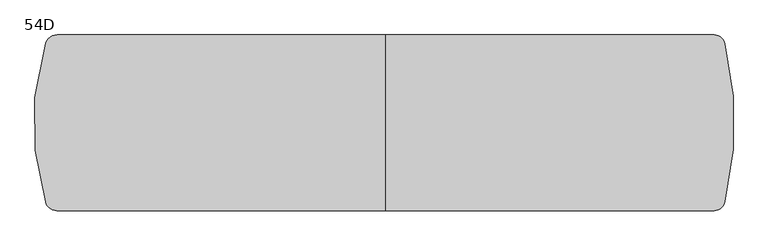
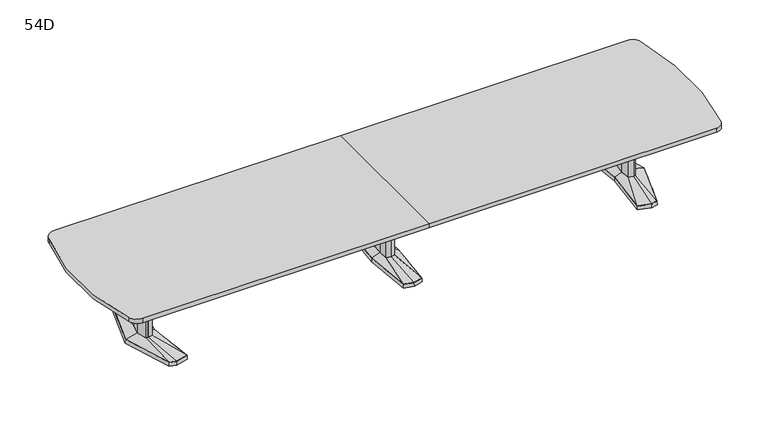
"""IFC4 building model written with IfcOpenShell, lengths in millimetres: furniture geometry, Coalesse_AM_Table_Conference_ETable2_SoftRadiused_18ft_AluminiumBase : 54D."""

from ifc_helpers import new_model, si_unit, point, frame, frame_2d, origin, place, context, project, spatial, polyline, circle_curve, trimmed, segment, composite_curve, outline, extrude, faceted_brep, source, transform, mapped, element, save
from ifc_brep_helpers import plane_surface, spline_surface, advanced_brep


def furniture_54d_258da948(model_context):
    return source(origin(), model_context, "Body", "SolidModel", [
        faceted_brep([(-81.2333791, -433.8053819, 38.1), (0.0, -455.556576, 38.1), (81.2333791, -433.8053819, 38.1), (119.0564774, 0.0, 38.1), (81.2333791, 433.8053819, 38.1), (0.0, 455.556576, 38.1), (-81.2333791, 433.8053819, 38.1), (-119.0564774, 0.0, 38.1), (-82.7182795, -435.0512063, 3.175), (-120.65, 0.0, 3.175), (-82.7182795, 435.0512063, 3.175), (0.0, 457.2, 3.175), (82.7182795, 435.0512063, 3.175), (120.65, 0.0, 3.175), (82.7182795, -435.0512063, 3.175), (0.0, -457.2, 3.175), (0.0, 429.2617927, 3.175), (-77.9676806, 408.3850278, 3.175), (-74.7019821, 382.9646737, 3.175), (0.0, 402.9670094, 3.175), (74.7019821, 382.9646737, 3.175), (77.9676806, 408.3850278, 3.175), (0.0, -429.2617927, 3.175), (77.9676806, -408.3850278, 3.175), (74.7019821, -382.9646737, 3.175), (0.0, -402.9670094, 3.175), (-74.7019821, -382.9646737, 3.175), (-77.9676806, -408.3850278, 3.175), (-71.8574262, 114.6326257, 3.175), (-82.5426076, 0.0, 3.175), (-71.8574262, -114.6326257, 3.175), (0.0, -133.8761372, 3.175), (71.8574262, -114.6326257, 3.175), (82.5426076, 0.0, 3.175), (71.8574262, 114.6326257, 3.175), (0.0, 133.8761372, 3.175), (0.0, 429.2617927, 0.0), (77.9676806, 408.3850278, 0.0), (74.7019821, 382.9646737, 0.0), (0.0, 402.9670094, 0.0), (-74.7019821, 382.9646737, 0.0), (-77.9676806, 408.3850278, 0.0), (0.0, -429.2617927, 0.0), (-77.9676806, -408.3850278, 0.0), (-74.7019821, -382.9646737, 0.0), (0.0, -402.9670094, 0.0), (74.7019821, -382.9646737, 0.0), (77.9676806, -408.3850278, 0.0), (-71.8574262, 114.6326257, 0.0), (0.0, 133.8761372, 0.0), (71.8574262, 114.6326257, 0.0), (82.5426076, 0.0, 0.0), (71.8574262, -114.6326257, 0.0), (0.0, -133.8761372, 0.0), (-71.8574262, -114.6326257, 0.0), (-82.5426076, 0.0, 0.0)], [[[0, 1, 2, 3, 4, 5, 6, 7]], [[8, 9, 10, 11, 12, 13, 14, 15], [16, 17, 18, 19, 20, 21], [22, 23, 24, 25, 26, 27], [28, 29, 30, 31, 32, 33, 34, 35]], [[1, 0, 8, 15]], [[2, 1, 15, 14]], [[3, 2, 14, 13]], [[4, 3, 13, 12]], [[5, 4, 12, 11]], [[6, 5, 11, 10]], [[7, 6, 10, 9]], [[0, 7, 9, 8]], [[36, 37, 38, 39, 40, 41]], [[42, 43, 44, 45, 46, 47]], [[48, 49, 50, 51, 52, 53, 54, 55]], [[36, 41, 17, 16]], [[41, 40, 18, 17]], [[40, 39, 19, 18]], [[39, 38, 20, 19]], [[38, 37, 21, 20]], [[37, 36, 16, 21]], [[42, 47, 23, 22]], [[47, 46, 24, 23]], [[46, 45, 25, 24]], [[45, 44, 26, 25]], [[44, 43, 27, 26]], [[43, 42, 22, 27]], [[48, 55, 29, 28]], [[55, 54, 30, 29]], [[54, 53, 31, 30]], [[53, 52, 32, 31]], [[52, 51, 33, 32]], [[51, 50, 34, 33]], [[50, 49, 35, 34]], [[49, 48, 28, 35]]]),
        faceted_brep([(-36.3832834, 84.6900825, 698.5), (-44.2774487, 0.0, 698.5), (-36.3832834, -84.6900825, 698.5), (0.0, -94.4335728, 698.5), (36.3832834, -84.6900825, 698.5), (44.2774487, 0.0, 698.5), (36.3832834, 84.6900825, 698.5), (0.0, 94.4335728, 698.5), (-36.3832834, 84.6900825, 63.5), (0.0, 94.4335728, 63.5), (36.3832834, 84.6900825, 63.5), (44.2774487, 0.0, 63.5), (36.3832834, -84.6900825, 63.5), (0.0, -94.4335728, 63.5), (-36.3832834, -84.6900825, 63.5), (-44.2774487, 0.0, 63.5)], [[[0, 1, 2, 3, 4, 5, 6, 7]], [[8, 9, 10, 11, 12, 13, 14, 15]], [[1, 0, 8, 15]], [[2, 1, 15, 14]], [[3, 2, 14, 13]], [[4, 3, 13, 12]], [[5, 4, 12, 11]], [[6, 5, 11, 10]], [[7, 6, 10, 9]], [[0, 7, 9, 8]]]),
        advanced_brep(
        [(-36.3832834, 84.6900825, 63.5), (-44.2774487, 0.0, 63.5), (-36.3832834, -84.6900825, 63.5), (0.0, -94.4335728, 63.5), (36.3832834, -84.6900825, 63.5), (44.2774487, 0.0, 63.5), (36.3832834, 84.6900825, 63.5), (0.0, 94.4335728, 63.5), (-81.2333791, 433.8053819, 38.1), (0.0, 455.556576, 38.1), (81.2333791, 433.8053819, 38.1), (119.0564774, 0.0, 38.1), (81.2333791, -433.8053819, 38.1), (0.0, -455.556576, 38.1), (-81.2333791, -433.8053819, 38.1), (-119.0564774, 0.0, 38.1)],
        [
            (0, 1),
            (1, 2),
            (2, 3),
            (3, 4),
            (4, 5),
            (5, 6),
            (6, 7),
            (7, 0),
            (8, 9),
            (9, 10),
            (10, 11),
            (11, 12),
            (12, 13),
            (13, 14),
            (14, 15),
            (15, 8),
            (15, 1),
            (0, 8),
            (14, 2),
            (13, 3),
            (12, 4),
            (11, 5),
            (10, 6),
            (9, 7),
        ],
        [
            plane_surface(frame((0.0, 0.0, 63.5), z_axis=(0.0, 0.0, 1.0000000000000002), x_axis=(-0.9659615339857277, -0.25868574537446, 0.0))),
            plane_surface(frame((0.0, 0.0, 38.1), z_axis=(0.0, 0.0, -1.0000000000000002), x_axis=(-0.9659615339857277, -0.25868574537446, 0.0))),
            spline_surface(1, 1, [[(-81.2333791, 433.8053819, 38.1), (-36.3832834, 84.6900825, 63.5)], [(-119.0564774, 0.0, 38.1), (-44.2774487, 0.0, 63.5)]], [2, 2], [2, 2], [0.0, 1.0], [0.0, 1.0]),
            spline_surface(1, 1, [[(-119.0564774, 0.0, 38.1), (-44.2774487, 0.0, 63.5)], [(-81.2333791, -433.8053819, 38.1), (-36.3832834, -84.6900825, 63.5)]], [2, 2], [2, 2], [0.0, 1.0], [0.0, 1.0]),
            spline_surface(1, 1, [[(-81.2333791, -433.8053819, 38.1), (-36.3832834, -84.6900825, 63.5)], [(0.0, -455.556576, 38.1), (0.0, -94.4335728, 63.5)]], [2, 2], [2, 2], [0.0, 1.0], [0.0, 1.0]),
            spline_surface(1, 1, [[(0.0, -455.556576, 38.1), (0.0, -94.4335728, 63.5)], [(81.2333791, -433.8053819, 38.1), (36.3832834, -84.6900825, 63.5)]], [2, 2], [2, 2], [0.0, 1.0], [0.0, 1.0]),
            spline_surface(1, 1, [[(81.2333791, -433.8053819, 38.1), (36.3832834, -84.6900825, 63.5)], [(119.0564774, 0.0, 38.1), (44.2774487, 0.0, 63.5)]], [2, 2], [2, 2], [0.0, 1.0], [0.0, 1.0]),
            spline_surface(1, 1, [[(119.0564774, 0.0, 38.1), (44.2774487, 0.0, 63.5)], [(81.2333791, 433.8053819, 38.1), (36.3832834, 84.6900825, 63.5)]], [2, 2], [2, 2], [0.0, 1.0], [0.0, 1.0]),
            spline_surface(1, 1, [[(81.2333791, 433.8053819, 38.1), (36.3832834, 84.6900825, 63.5)], [(0.0, 455.556576, 38.1), (0.0, 94.4335728, 63.5)]], [2, 2], [2, 2], [0.0, 1.0], [0.0, 1.0]),
            spline_surface(1, 1, [[(0.0, 455.556576, 38.1), (0.0, 94.4335728, 63.5)], [(-81.2333791, 433.8053819, 38.1), (-36.3832834, 84.6900825, 63.5)]], [2, 2], [2, 2], [0.0, 1.0], [0.0, 1.0]),
        ],
        [
            (0, [[1, 2, 3, 4, 5, 6, 7, 8]]),
            (1, [[9, 10, 11, 12, 13, 14, 15, 16]]),
            (2, [[-16, 17, -1, 18]]),
            (3, [[-15, 19, -2, -17]]),
            (4, [[-14, 20, -3, -19]]),
            (5, [[-13, 21, -4, -20]]),
            (6, [[-12, 22, -5, -21]]),
            (7, [[-11, 23, -6, -22]]),
            (8, [[-10, 24, -7, -23]]),
            (9, [[-9, -18, -8, -24]]),
        ],
    ),
        faceted_brep([(2125.0306835, 455.5848221, 38.1), (2015.4531277, 426.2263816, 38.1), (2056.6163717, 0.0, 38.1), (2015.4531277, -426.2263816, 38.1), (2125.0306835, -455.5848221, 38.1), (2181.1570396, -440.5478297, 38.1), (2318.4684269, 0.0, 38.1), (2181.1570396, 440.5478297, 38.1), (2125.0306754, 457.2283104, 3.175), (2182.4124472, 441.8549756, 3.175), (2320.13125, 0.0, 3.175), (2182.4124472, -441.8549756, 3.175), (2125.0306754, -457.2283104, 3.175), (2013.74375, -427.4118891, 3.175), (2055.0214856, 0.0, 3.175), (2013.74375, 427.4118891, 3.175), (2128.620115, 428.3273875, 3.175), (2023.5718228, 402.1057253, 3.175), (2031.690518, 377.985069, 3.175), (2132.2095466, 401.0699529, 3.175), (2182.7691725, 387.524361, 3.175), (2181.9631061, 414.0360954, 3.175), (2128.620115, -428.3273875, 3.175), (2181.9631061, -414.0360954, 3.175), (2182.7691725, -387.524361, 3.175), (2132.2095466, -401.0699529, 3.175), (2031.690518, -377.985069, 3.175), (2023.5718228, -402.1057253, 3.175), (2255.2153621, 0.0, 3.175), (2222.9459611, 120.4193755, 3.175), (2174.2987222, 133.471665, 3.175), (2094.4180526, 119.4176561, 3.175), (2083.2868466, 0.0, 3.175), (2094.4180526, -119.4176561, 3.175), (2174.2987222, -133.471665, 3.175), (2222.9459611, -120.4193755, 3.175), (2128.620115, 428.3273875, 0.0), (2181.9631061, 414.0360954, 0.0), (2182.7691725, 387.524361, 0.0), (2132.2095466, 401.0699529, 0.0), (2031.690518, 377.985069, 0.0), (2023.5718228, 402.1057253, 0.0), (2128.620115, -428.3273875, 0.0), (2023.5718228, -402.1057253, 0.0), (2031.690518, -377.985069, 0.0), (2132.2095466, -401.0699529, 0.0), (2182.7691725, -387.524361, 0.0), (2181.9631061, -414.0360954, 0.0), (2255.2153621, 0.0, 0.0), (2222.9459611, -120.4193755, 0.0), (2174.2987222, -133.471665, 0.0), (2094.4180526, -119.4176561, 0.0), (2083.2868466, 0.0, 0.0), (2094.4180526, 119.4176561, 0.0), (2174.2987222, 133.471665, 0.0), (2222.9459611, 120.4193755, 0.0)], [[[0, 1, 2, 3, 4, 5, 6, 7]], [[8, 9, 10, 11, 12, 13, 14, 15], [16, 17, 18, 19, 20, 21], [22, 23, 24, 25, 26, 27], [28, 29, 30, 31, 32, 33, 34, 35]], [[7, 9, 8, 0]], [[6, 10, 9, 7]], [[5, 11, 10, 6]], [[4, 12, 11, 5]], [[3, 13, 12, 4]], [[2, 14, 13, 3]], [[1, 15, 14, 2]], [[0, 8, 15, 1]], [[36, 37, 38, 39, 40, 41]], [[42, 43, 44, 45, 46, 47]], [[48, 49, 50, 51, 52, 53, 54, 55]], [[36, 16, 21, 37]], [[37, 21, 20, 38]], [[38, 20, 19, 39]], [[39, 19, 18, 40]], [[40, 18, 17, 41]], [[41, 17, 16, 36]], [[42, 22, 27, 43]], [[43, 27, 26, 44]], [[44, 26, 25, 45]], [[45, 25, 24, 46]], [[46, 24, 23, 47]], [[47, 23, 22, 42]], [[48, 28, 35, 49]], [[49, 35, 34, 50]], [[50, 34, 33, 51]], [[51, 33, 32, 52]], [[52, 32, 31, 53]], [[53, 31, 30, 54]], [[54, 30, 29, 55]], [[55, 29, 28, 48]]]),
        faceted_brep([(2215.7710836, 0.0, 698.5), (2191.8358546, 89.3188359, 698.5), (2174.9824984, 93.8406728, 698.5), (2172.5826511, 94.4845635, 698.5), (2129.655146, 86.9320037, 698.5), (2121.5520056, 0.0, 698.5), (2129.655146, -86.9320037, 698.5), (2172.5826511, -94.4845635, 698.5), (2174.9824984, -93.8406728, 698.5), (2191.8358546, -89.3188359, 698.5), (2215.7710836, 0.0, 63.5), (2191.8358546, -89.3188359, 63.5), (2174.9824984, -93.8406728, 63.5), (2172.5826511, -94.4845635, 63.5), (2129.655146, -86.9320037, 63.5), (2121.5520056, 0.0, 63.5), (2129.655146, 86.9320037, 63.5), (2172.5826511, 94.4845635, 63.5), (2174.9824984, 93.8406728, 63.5), (2191.8358546, 89.3188359, 63.5)], [[[0, 1, 2, 3, 4, 5, 6, 7, 8, 9]], [[10, 11, 12, 13, 14, 15, 16, 17, 18, 19]], [[9, 11, 10, 0]], [[8, 12, 11, 9]], [[7, 13, 12, 8]], [[6, 14, 13, 7]], [[5, 15, 14, 6]], [[4, 16, 15, 5]], [[3, 17, 16, 4]], [[2, 18, 17, 3]], [[1, 19, 18, 2]], [[0, 10, 19, 1]]]),
        advanced_brep(
        [(2172.5826511, 94.4845635, 63.5), (2129.655146, 86.9320037, 63.5), (2121.5520056, 0.0, 63.5), (2129.655146, -86.9320037, 63.5), (2172.5826511, -94.4845635, 63.5), (2191.8358546, -89.3188359, 63.5), (2215.7710836, 0.0, 63.5), (2191.8358546, 89.3188359, 63.5), (2125.0306835, 455.5848221, 38.1), (2181.1570396, 440.5478297, 38.1), (2318.4684269, 0.0, 38.1), (2181.1570396, -440.5478297, 38.1), (2125.0306835, -455.5848221, 38.1), (2015.4531277, -426.2263816, 38.1), (2056.6163717, 0.0, 38.1), (2015.4531277, 426.2263816, 38.1)],
        [
            (0, 1),
            (1, 2),
            (2, 3),
            (3, 4),
            (4, 5),
            (5, 6),
            (6, 7),
            (7, 0),
            (8, 9),
            (9, 10),
            (10, 11),
            (11, 12),
            (12, 13),
            (13, 14),
            (14, 15),
            (15, 8),
            (8, 0),
            (7, 9),
            (6, 10),
            (5, 11),
            (4, 12),
            (3, 13),
            (2, 14),
            (1, 15),
        ],
        [
            plane_surface(frame((2165.6837991, 0.0, 63.5), z_axis=(0.0, 0.0, 1.0), x_axis=(-0.25884244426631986, -0.9659195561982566, 0.0))),
            plane_surface(frame((2127.2958125, 0.0, 38.1), z_axis=(0.0, 0.0, -1.0), x_axis=(-0.25884244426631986, -0.9659195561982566, 0.0))),
            spline_surface(1, 1, [[(2125.0306835, 455.5848221, 38.1), (2181.1570396, 440.5478297, 38.1)], [(2172.5826511, 94.4845635, 63.5), (2191.8358546, 89.3188359, 63.5)]], [2, 2], [2, 2], [0.0, 1.0], [0.0, 1.0]),
            spline_surface(1, 1, [[(2181.1570396, 440.5478297, 38.1), (2318.4684269, 0.0, 38.1)], [(2191.8358546, 89.3188359, 63.5), (2215.7710836, 0.0, 63.5)]], [2, 2], [2, 2], [0.0, 1.0], [0.0, 1.0]),
            spline_surface(1, 1, [[(2318.4684269, 0.0, 38.1), (2181.1570396, -440.5478297, 38.1)], [(2215.7710836, 0.0, 63.5), (2191.8358546, -89.3188359, 63.5)]], [2, 2], [2, 2], [0.0, 1.0], [0.0, 1.0]),
            spline_surface(1, 1, [[(2181.1570396, -440.5478297, 38.1), (2125.0306835, -455.5848221, 38.1)], [(2191.8358546, -89.3188359, 63.5), (2172.5826511, -94.4845635, 63.5)]], [2, 2], [2, 2], [0.0, 1.0], [0.0, 1.0]),
            spline_surface(1, 1, [[(2125.0306835, -455.5848221, 38.1), (2015.4531277, -426.2263816, 38.1)], [(2172.5826511, -94.4845635, 63.5), (2129.655146, -86.9320037, 63.5)]], [2, 2], [2, 2], [0.0, 1.0], [0.0, 1.0]),
            spline_surface(1, 1, [[(2015.4531277, -426.2263816, 38.1), (2056.6163717, 0.0, 38.1)], [(2129.655146, -86.9320037, 63.5), (2121.5520056, 0.0, 63.5)]], [2, 2], [2, 2], [0.0, 1.0], [0.0, 1.0]),
            spline_surface(1, 1, [[(2056.6163717, 0.0, 38.1), (2015.4531277, 426.2263816, 38.1)], [(2121.5520056, 0.0, 63.5), (2129.655146, 86.9320037, 63.5)]], [2, 2], [2, 2], [0.0, 1.0], [0.0, 1.0]),
            spline_surface(1, 1, [[(2015.4531277, 426.2263816, 38.1), (2125.0306835, 455.5848221, 38.1)], [(2129.655146, 86.9320037, 63.5), (2172.5826511, 94.4845635, 63.5)]], [2, 2], [2, 2], [0.0, 1.0], [0.0, 1.0]),
        ],
        [
            (0, [[1, 2, 3, 4, 5, 6, 7, 8]]),
            (1, [[9, 10, 11, 12, 13, 14, 15, 16]]),
            (2, [[17, -8, 18, -9]]),
            (3, [[-18, -7, 19, -10]]),
            (4, [[-19, -6, 20, -11]]),
            (5, [[-20, -5, 21, -12]]),
            (6, [[-21, -4, 22, -13]]),
            (7, [[-22, -3, 23, -14]]),
            (8, [[-23, -2, 24, -15]]),
            (9, [[-24, -1, -17, -16]]),
        ],
    ),
        faceted_brep([(-2125.0306835, 455.5848221, 38.1), (-2181.1570396, 440.5478297, 38.1), (-2318.4684269, 0.0, 38.1), (-2181.1570396, -440.5478297, 38.1), (-2125.0306835, -455.5848221, 38.1), (-2015.4531277, -426.2263816, 38.1), (-2056.6163717, 0.0, 38.1), (-2015.4531277, 426.2263816, 38.1), (-2125.0306754, 457.2283104, 3.175), (-2013.74375, 427.4118891, 3.175), (-2055.0214856, 0.0, 3.175), (-2013.74375, -427.4118891, 3.175), (-2125.0306754, -457.2283104, 3.175), (-2182.4124472, -441.8549756, 3.175), (-2320.13125, 0.0, 3.175), (-2182.4124472, 441.8549756, 3.175), (-2128.620115, 428.3273875, 3.175), (-2181.9631061, 414.0360954, 3.175), (-2182.7691725, 387.524361, 3.175), (-2132.2095466, 401.0699529, 3.175), (-2031.690518, 377.985069, 3.175), (-2023.5718228, 402.1057253, 3.175), (-2128.620115, -428.3273875, 3.175), (-2023.5718228, -402.1057253, 3.175), (-2031.690518, -377.985069, 3.175), (-2132.2095466, -401.0699529, 3.175), (-2182.7691725, -387.524361, 3.175), (-2181.9631061, -414.0360954, 3.175), (-2255.2153621, 0.0, 3.175), (-2222.9459611, -120.4193755, 3.175), (-2174.2987222, -133.471665, 3.175), (-2094.4180526, -119.4176561, 3.175), (-2083.2868466, 0.0, 3.175), (-2094.4180526, 119.4176561, 3.175), (-2174.2987222, 133.471665, 3.175), (-2222.9459611, 120.4193755, 3.175), (-2128.620115, 428.3273875, 0.0), (-2023.5718228, 402.1057253, 0.0), (-2031.690518, 377.985069, 0.0), (-2132.2095466, 401.0699529, 0.0), (-2182.7691725, 387.524361, 0.0), (-2181.9631061, 414.0360954, 0.0), (-2128.620115, -428.3273875, 0.0), (-2181.9631061, -414.0360954, 0.0), (-2182.7691725, -387.524361, 0.0), (-2132.2095466, -401.0699529, 0.0), (-2031.690518, -377.985069, 0.0), (-2023.5718228, -402.1057253, 0.0), (-2255.2153621, 0.0, 0.0), (-2222.9459611, 120.4193755, 0.0), (-2174.2987222, 133.471665, 0.0), (-2094.4180526, 119.4176561, 0.0), (-2083.2868466, 0.0, 0.0), (-2094.4180526, -119.4176561, 0.0), (-2174.2987222, -133.471665, 0.0), (-2222.9459611, -120.4193755, 0.0)], [[[0, 1, 2, 3, 4, 5, 6, 7]], [[8, 9, 10, 11, 12, 13, 14, 15], [16, 17, 18, 19, 20, 21], [22, 23, 24, 25, 26, 27], [28, 29, 30, 31, 32, 33, 34, 35]], [[1, 0, 8, 15]], [[2, 1, 15, 14]], [[3, 2, 14, 13]], [[4, 3, 13, 12]], [[5, 4, 12, 11]], [[6, 5, 11, 10]], [[7, 6, 10, 9]], [[0, 7, 9, 8]], [[36, 37, 38, 39, 40, 41]], [[42, 43, 44, 45, 46, 47]], [[48, 49, 50, 51, 52, 53, 54, 55]], [[36, 41, 17, 16]], [[41, 40, 18, 17]], [[40, 39, 19, 18]], [[39, 38, 20, 19]], [[38, 37, 21, 20]], [[37, 36, 16, 21]], [[42, 47, 23, 22]], [[47, 46, 24, 23]], [[46, 45, 25, 24]], [[45, 44, 26, 25]], [[44, 43, 27, 26]], [[43, 42, 22, 27]], [[48, 55, 29, 28]], [[55, 54, 30, 29]], [[54, 53, 31, 30]], [[53, 52, 32, 31]], [[52, 51, 33, 32]], [[51, 50, 34, 33]], [[50, 49, 35, 34]], [[49, 48, 28, 35]]]),
        faceted_brep([(-2215.7710836, 0.0, 698.5), (-2191.8358546, -89.3188359, 698.5), (-2174.9824984, -93.8406728, 698.5), (-2172.5826511, -94.4845635, 698.5), (-2129.655146, -86.9320037, 698.5), (-2121.5520056, 0.0, 698.5), (-2129.655146, 86.9320037, 698.5), (-2172.5826511, 94.4845635, 698.5), (-2174.9824984, 93.8406728, 698.5), (-2191.8358546, 89.3188359, 698.5), (-2215.7710836, 0.0, 63.5), (-2191.8358546, 89.3188359, 63.5), (-2174.9824984, 93.8406728, 63.5), (-2172.5826511, 94.4845635, 63.5), (-2129.655146, 86.9320037, 63.5), (-2121.5520056, 0.0, 63.5), (-2129.655146, -86.9320037, 63.5), (-2172.5826511, -94.4845635, 63.5), (-2174.9824984, -93.8406728, 63.5), (-2191.8358546, -89.3188359, 63.5)], [[[0, 1, 2, 3, 4, 5, 6, 7, 8, 9]], [[10, 11, 12, 13, 14, 15, 16, 17, 18, 19]], [[1, 0, 10, 19]], [[2, 1, 19, 18]], [[3, 2, 18, 17]], [[4, 3, 17, 16]], [[5, 4, 16, 15]], [[6, 5, 15, 14]], [[7, 6, 14, 13]], [[8, 7, 13, 12]], [[9, 8, 12, 11]], [[0, 9, 11, 10]]]),
        advanced_brep(
        [(-2172.5826511, 94.4845635, 63.5), (-2191.8358546, 89.3188359, 63.5), (-2215.7710836, 0.0, 63.5), (-2191.8358546, -89.3188359, 63.5), (-2172.5826511, -94.4845635, 63.5), (-2129.655146, -86.9320037, 63.5), (-2121.5520056, 0.0, 63.5), (-2129.655146, 86.9320037, 63.5), (-2125.0306835, 455.5848221, 38.1), (-2015.4531277, 426.2263816, 38.1), (-2056.6163717, 0.0, 38.1), (-2015.4531277, -426.2263816, 38.1), (-2125.0306835, -455.5848221, 38.1), (-2181.1570396, -440.5478297, 38.1), (-2318.4684269, 0.0, 38.1), (-2181.1570396, 440.5478297, 38.1)],
        [
            (0, 1),
            (1, 2),
            (2, 3),
            (3, 4),
            (4, 5),
            (5, 6),
            (6, 7),
            (7, 0),
            (8, 9),
            (9, 10),
            (10, 11),
            (11, 12),
            (12, 13),
            (13, 14),
            (14, 15),
            (15, 8),
            (15, 1),
            (0, 8),
            (14, 2),
            (13, 3),
            (12, 4),
            (11, 5),
            (10, 6),
            (9, 7),
        ],
        [
            plane_surface(frame((-2165.6837991, 0.0, 63.5), z_axis=(0.0, 0.0, 1.0), x_axis=(0.25884244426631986, -0.9659195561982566, 0.0))),
            plane_surface(frame((-2127.2958125, 0.0, 38.1), z_axis=(0.0, 0.0, -1.0), x_axis=(0.25884244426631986, -0.9659195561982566, 0.0))),
            spline_surface(1, 1, [[(-2125.0306835, 455.5848221, 38.1), (-2172.5826511, 94.4845635, 63.5)], [(-2181.1570396, 440.5478297, 38.1), (-2191.8358546, 89.3188359, 63.5)]], [2, 2], [2, 2], [0.0, 1.0], [0.0, 1.0]),
            spline_surface(1, 1, [[(-2181.1570396, 440.5478297, 38.1), (-2191.8358546, 89.3188359, 63.5)], [(-2318.4684269, 0.0, 38.1), (-2215.7710836, 0.0, 63.5)]], [2, 2], [2, 2], [0.0, 1.0], [0.0, 1.0]),
            spline_surface(1, 1, [[(-2318.4684269, 0.0, 38.1), (-2215.7710836, 0.0, 63.5)], [(-2181.1570396, -440.5478297, 38.1), (-2191.8358546, -89.3188359, 63.5)]], [2, 2], [2, 2], [0.0, 1.0], [0.0, 1.0]),
            spline_surface(1, 1, [[(-2181.1570396, -440.5478297, 38.1), (-2191.8358546, -89.3188359, 63.5)], [(-2125.0306835, -455.5848221, 38.1), (-2172.5826511, -94.4845635, 63.5)]], [2, 2], [2, 2], [0.0, 1.0], [0.0, 1.0]),
            spline_surface(1, 1, [[(-2125.0306835, -455.5848221, 38.1), (-2172.5826511, -94.4845635, 63.5)], [(-2015.4531277, -426.2263816, 38.1), (-2129.655146, -86.9320037, 63.5)]], [2, 2], [2, 2], [0.0, 1.0], [0.0, 1.0]),
            spline_surface(1, 1, [[(-2015.4531277, -426.2263816, 38.1), (-2129.655146, -86.9320037, 63.5)], [(-2056.6163717, 0.0, 38.1), (-2121.5520056, 0.0, 63.5)]], [2, 2], [2, 2], [0.0, 1.0], [0.0, 1.0]),
            spline_surface(1, 1, [[(-2056.6163717, 0.0, 38.1), (-2121.5520056, 0.0, 63.5)], [(-2015.4531277, 426.2263816, 38.1), (-2129.655146, 86.9320037, 63.5)]], [2, 2], [2, 2], [0.0, 1.0], [0.0, 1.0]),
            spline_surface(1, 1, [[(-2015.4531277, 426.2263816, 38.1), (-2129.655146, 86.9320037, 63.5)], [(-2125.0306835, 455.5848221, 38.1), (-2172.5826511, 94.4845635, 63.5)]], [2, 2], [2, 2], [0.0, 1.0], [0.0, 1.0]),
        ],
        [
            (0, [[1, 2, 3, 4, 5, 6, 7, 8]]),
            (1, [[9, 10, 11, 12, 13, 14, 15, 16]]),
            (2, [[-16, 17, -1, 18]]),
            (3, [[-15, 19, -2, -17]]),
            (4, [[-14, 20, -3, -19]]),
            (5, [[-13, 21, -4, -20]]),
            (6, [[-12, 22, -5, -21]]),
            (7, [[-11, 23, -6, -22]]),
            (8, [[-10, 24, -7, -23]]),
            (9, [[-9, -18, -8, -24]]),
        ],
    ),
        extrude(outline(polyline([(96.8375, 698.5), (103.1875, 698.5), (103.1875, 476.25), (-103.1875, 476.25), (-103.1875, 698.5), (-96.8375, 698.5), (-96.8375, 482.6), (96.8375, 482.6), (96.8375, 698.5)])), frame((44.2774487, 0.0, 0.0), z_axis=(1.0, 0.0, 0.0), x_axis=(0.0, 1.0, 0.0)), (0.0, 0.0, 1.0), 2077.4163013),
        extrude(outline(composite_curve([segment(polyline([(0.0, 685.8), (0.0, -685.8), (-2563.7617771, -685.8)]), True, "CONTINUOUS"), segment(trimmed(circle_curve(frame_2d((-2563.7617771, -597.2532728)), 88.5467272), [point((-2563.7617771, -685.8))], [point((-2649.7932067, -618.2083682))], False, "CARTESIAN"), True, "CONTINUOUS"), segment(trimmed(circle_curve(frame_2d((-650.705431, 0.0)), 2092.494569), [point((-2649.7932067, -618.2083682))], [point((-2655.0946862, 600.7971661))], False, "CARTESIAN"), True, "CONTINUOUS"), segment(trimmed(circle_curve(frame_2d((-2558.7602226, 588.7102331)), 97.0897669), [point((-2655.0946862, 600.7971661))], [point((-2558.7602226, 685.8))], False, "CARTESIAN"), True, "CONTINUOUS"), segment(polyline([(-2558.7602226, 685.8), (0.0, 685.8)]), True, "CONTINUOUS")], self_intersect=False)), frame((0.0, 0.0, 698.5), z_axis=(0.0, 0.0, 1.0), x_axis=(1.0, 0.0, 0.0)), (0.0, 0.0, 1.0), 38.1),
        extrude(outline(composite_curve([segment(trimmed(circle_curve(frame_2d((115.2979315, 0.0)), 2608.8020021), [point((2649.7932067, 618.2083682))], [point((2649.7932067, -618.2083682))], False, "CARTESIAN"), True, "CONTINUOUS"), segment(trimmed(circle_curve(frame_2d((2568.9605731, -603.6704298)), 82.1295702), [point((2649.7932067, -618.2083682))], [point((2568.9605731, -685.8))], False, "CARTESIAN"), True, "CONTINUOUS"), segment(polyline([(2568.9605731, -685.8), (0.0, -685.8), (0.0, 685.8), (2568.9605731, 685.8)]), True, "CONTINUOUS"), segment(trimmed(circle_curve(frame_2d((2568.9605731, 603.6704298)), 82.1295702), [point((2568.9605731, 685.8))], [point((2649.7932067, 618.2083682))], False, "CARTESIAN"), True, "CONTINUOUS")], self_intersect=False)), frame((0.0, 0.0, 698.5), z_axis=(0.0, 0.0, 1.0), x_axis=(1.0, 0.0, 0.0)), (0.0, 0.0, 1.0), 38.1),
        extrude(outline(polyline([(96.8375, 698.5), (103.1875, 698.5), (103.1875, 476.25), (-103.1875, 476.25), (-103.1875, 698.5), (-96.8375, 698.5), (-96.8375, 482.6), (96.8375, 482.6), (96.8375, 698.5)])), frame((-2121.69375, 0.0, 0.0), z_axis=(1.0, 0.0, 0.0), x_axis=(0.0, 1.0, 0.0)), (0.0, 0.0, 1.0), 2077.4163013),
    ])


if __name__ == "__main__":
    model = new_model("IFC4")
    model_context = context("Model", 3, world=origin())
    ifc_project = project(units=[si_unit("LENGTHUNIT", "METRE", prefix="MILLI")], contexts=[model_context])
    site = spatial("IfcSite", under=ifc_project)
    building = spatial("IfcBuilding", under=site)
    placement = place(None, origin())
    furniture_54d_shape = furniture_54d_258da948(model_context)
    element("IfcFurniture", 1, ObjectType="Coalesse_AM_Table_Conference_ETable2_SoftRadiused_18ft_AluminiumBase : 54D", at=placement, inside=building, context=model_context, shape_type="MappedRepresentation", body=[
        mapped(furniture_54d_shape, transform((0.0, 0.0, 0.0), x_axis=(1.0, 0.0, 0.0), y_axis=(0.0, 1.0, 0.0), z_axis=(0.0, 0.0, 1.0))),
    ])
    save(model, "model.ifc")
